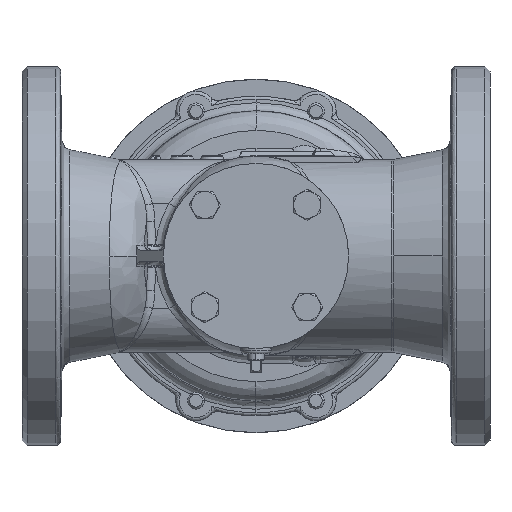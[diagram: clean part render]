
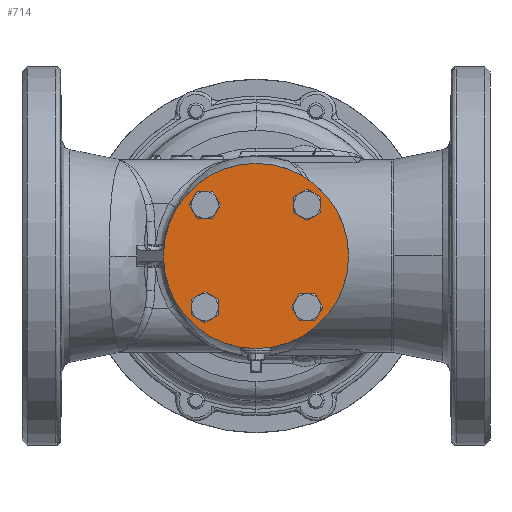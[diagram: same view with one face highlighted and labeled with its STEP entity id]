
A CAD part, front view. The second image highlights one B-rep face of the part: STEP entity #714.
In plain terms, the highlighted planar face has unit normal (0, -1, 0).
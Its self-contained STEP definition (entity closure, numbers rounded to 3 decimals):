
#714=ADVANCED_FACE('',(#4821,#4822,#4823,#4824,#4825),#4820,.F.);
#4820=PLANE('',#16788);
#4821=FACE_OUTER_BOUND('',#16789,.T.);
#4822=FACE_BOUND('',#16790,.T.);
#4823=FACE_BOUND('',#16791,.T.);
#4824=FACE_BOUND('',#16792,.T.);
#4825=FACE_BOUND('',#16793,.T.);
#16785=CARTESIAN_POINT('',(-105.263,-87.,-65.));
#16786=DIRECTION('',(0.,1.,0.));
#16787=DIRECTION('',(0.,0.,1.));
#16788=AXIS2_PLACEMENT_3D('',#16785,#16786,#16787);
#16789=EDGE_LOOP('',(#28236,#28237));
#16790=EDGE_LOOP('',(#28238,#28239));
#16791=EDGE_LOOP('',(#28240,#28241));
#16792=EDGE_LOOP('',(#28242,#28243));
#16793=EDGE_LOOP('',(#28244,#28245));
#28236=ORIENTED_EDGE('',*,*,#31192,.T.);
#28237=ORIENTED_EDGE('',*,*,#31193,.T.);
#28238=ORIENTED_EDGE('',*,*,#31194,.T.);
#28239=ORIENTED_EDGE('',*,*,#31195,.T.);
#28240=ORIENTED_EDGE('',*,*,#31196,.T.);
#28241=ORIENTED_EDGE('',*,*,#31197,.T.);
#28242=ORIENTED_EDGE('',*,*,#31198,.T.);
#28243=ORIENTED_EDGE('',*,*,#31199,.T.);
#28244=ORIENTED_EDGE('',*,*,#31200,.T.);
#28245=ORIENTED_EDGE('',*,*,#31201,.T.);
#31192=EDGE_CURVE('',#38766,#38767,#38768,.T.);
#31193=EDGE_CURVE('',#38767,#38766,#38774,.T.);
#31194=EDGE_CURVE('',#38780,#38781,#38782,.T.);
#31195=EDGE_CURVE('',#38781,#38780,#38788,.T.);
#31196=EDGE_CURVE('',#38794,#38795,#38796,.T.);
#31197=EDGE_CURVE('',#38795,#38794,#38802,.T.);
#31198=EDGE_CURVE('',#38808,#38809,#38810,.T.);
#31199=EDGE_CURVE('',#38809,#38808,#38816,.T.);
#31200=EDGE_CURVE('',#38822,#38823,#38824,.T.);
#31201=EDGE_CURVE('',#38823,#38822,#38830,.T.);
#38766=VERTEX_POINT('',#51516);
#38767=VERTEX_POINT('',#51517);
#38768=CIRCLE('',#51521,55.);
#38774=CIRCLE('',#51525,55.);
#38780=VERTEX_POINT('',#51526);
#38781=VERTEX_POINT('',#51527);
#38782=CIRCLE('',#51531,6.);
#38788=CIRCLE('',#51535,6.);
#38794=VERTEX_POINT('',#51536);
#38795=VERTEX_POINT('',#51537);
#38796=CIRCLE('',#51541,6.);
#38802=CIRCLE('',#51545,6.);
#38808=VERTEX_POINT('',#51546);
#38809=VERTEX_POINT('',#51547);
#38810=CIRCLE('',#51551,6.);
#38816=CIRCLE('',#51555,6.);
#38822=VERTEX_POINT('',#51556);
#38823=VERTEX_POINT('',#51557);
#38824=CIRCLE('',#51561,6.);
#38830=CIRCLE('',#51565,6.);
#51516=CARTESIAN_POINT('',(0.,-87.,-55.));
#51517=CARTESIAN_POINT('',(0.,-87.,55.));
#51518=CARTESIAN_POINT('',(0.,-87.,0.));
#51519=DIRECTION('',(0.,-1.,0.));
#51520=DIRECTION('',(0.,0.,-1.));
#51521=AXIS2_PLACEMENT_3D('',#51518,#51519,#51520);
#51522=CARTESIAN_POINT('',(0.,-87.,0.));
#51523=DIRECTION('',(0.,-1.,0.));
#51524=DIRECTION('',(0.,0.,-1.));
#51525=AXIS2_PLACEMENT_3D('',#51522,#51523,#51524);
#51526=CARTESIAN_POINT('',(30.406,-87.,-24.406));
#51527=CARTESIAN_POINT('',(30.406,-87.,-36.406));
#51528=CARTESIAN_POINT('',(30.406,-87.,-30.406));
#51529=DIRECTION('',(0.,1.,0.));
#51530=DIRECTION('',(0.,0.,1.));
#51531=AXIS2_PLACEMENT_3D('',#51528,#51529,#51530);
#51532=CARTESIAN_POINT('',(30.406,-87.,-30.406));
#51533=DIRECTION('',(0.,1.,0.));
#51534=DIRECTION('',(0.,0.,1.));
#51535=AXIS2_PLACEMENT_3D('',#51532,#51533,#51534);
#51536=CARTESIAN_POINT('',(30.406,-87.,36.406));
#51537=CARTESIAN_POINT('',(30.406,-87.,24.406));
#51538=CARTESIAN_POINT('',(30.406,-87.,30.406));
#51539=DIRECTION('',(0.,1.,0.));
#51540=DIRECTION('',(0.,0.,1.));
#51541=AXIS2_PLACEMENT_3D('',#51538,#51539,#51540);
#51542=CARTESIAN_POINT('',(30.406,-87.,30.406));
#51543=DIRECTION('',(0.,1.,0.));
#51544=DIRECTION('',(0.,0.,1.));
#51545=AXIS2_PLACEMENT_3D('',#51542,#51543,#51544);
#51546=CARTESIAN_POINT('',(-30.406,-87.,36.406));
#51547=CARTESIAN_POINT('',(-30.406,-87.,24.406));
#51548=CARTESIAN_POINT('',(-30.406,-87.,30.406));
#51549=DIRECTION('',(0.,1.,0.));
#51550=DIRECTION('',(0.,0.,1.));
#51551=AXIS2_PLACEMENT_3D('',#51548,#51549,#51550);
#51552=CARTESIAN_POINT('',(-30.406,-87.,30.406));
#51553=DIRECTION('',(0.,1.,0.));
#51554=DIRECTION('',(0.,0.,1.));
#51555=AXIS2_PLACEMENT_3D('',#51552,#51553,#51554);
#51556=CARTESIAN_POINT('',(-30.406,-87.,-24.406));
#51557=CARTESIAN_POINT('',(-30.406,-87.,-36.406));
#51558=CARTESIAN_POINT('',(-30.406,-87.,-30.406));
#51559=DIRECTION('',(0.,1.,0.));
#51560=DIRECTION('',(0.,0.,1.));
#51561=AXIS2_PLACEMENT_3D('',#51558,#51559,#51560);
#51562=CARTESIAN_POINT('',(-30.406,-87.,-30.406));
#51563=DIRECTION('',(0.,1.,0.));
#51564=DIRECTION('',(0.,0.,1.));
#51565=AXIS2_PLACEMENT_3D('',#51562,#51563,#51564);
